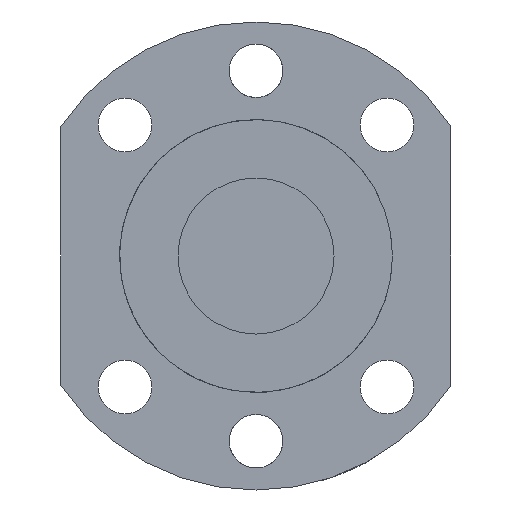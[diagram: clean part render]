
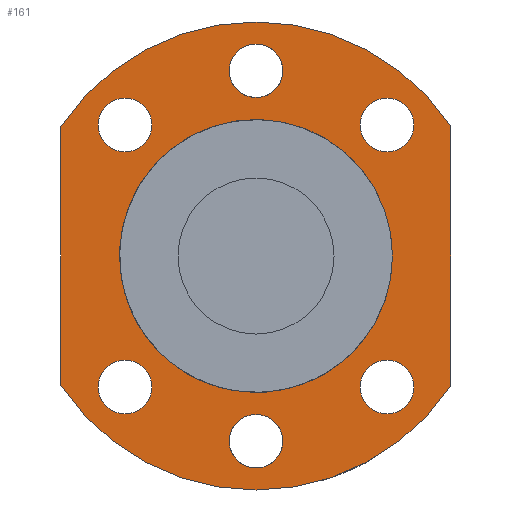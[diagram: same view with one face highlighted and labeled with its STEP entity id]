
A CAD part, front view. The second image highlights one B-rep face of the part: STEP entity #161.
In plain terms, the highlighted planar face has unit normal (0, -1, 0).
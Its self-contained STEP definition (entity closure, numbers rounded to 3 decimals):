
#104=LINE('',#853,#114);
#108=LINE('',#924,#118);
#114=VECTOR('',#673,1.);
#118=VECTOR('',#685,1.);
#141=PLANE('',#597);
#161=ADVANCED_FACE('',(#226,#227,#228,#229,#230,#231,#232,#233),#141,.F.);
#226=FACE_BOUND('',#293,.T.);
#227=FACE_BOUND('',#294,.T.);
#228=FACE_BOUND('',#295,.T.);
#229=FACE_BOUND('',#296,.T.);
#230=FACE_BOUND('',#297,.T.);
#231=FACE_BOUND('',#298,.T.);
#232=FACE_BOUND('',#299,.T.);
#233=FACE_BOUND('',#300,.T.);
#293=EDGE_LOOP('',(#379));
#294=EDGE_LOOP('',(#380));
#295=EDGE_LOOP('',(#381));
#296=EDGE_LOOP('',(#382));
#297=EDGE_LOOP('',(#383));
#298=EDGE_LOOP('',(#384));
#299=EDGE_LOOP('',(#385));
#300=EDGE_LOOP('',(#386,#387,#388,#389));
#379=ORIENTED_EDGE('',*,*,#501,.F.);
#380=ORIENTED_EDGE('',*,*,#502,.F.);
#381=ORIENTED_EDGE('',*,*,#503,.F.);
#382=ORIENTED_EDGE('',*,*,#504,.T.);
#383=ORIENTED_EDGE('',*,*,#505,.T.);
#384=ORIENTED_EDGE('',*,*,#506,.T.);
#385=ORIENTED_EDGE('',*,*,#507,.T.);
#386=ORIENTED_EDGE('',*,*,#481,.F.);
#387=ORIENTED_EDGE('',*,*,#492,.F.);
#388=ORIENTED_EDGE('',*,*,#489,.F.);
#389=ORIENTED_EDGE('',*,*,#485,.F.);
#439=VERTEX_POINT('',#845);
#440=VERTEX_POINT('',#846);
#443=VERTEX_POINT('',#854);
#446=VERTEX_POINT('',#919);
#455=VERTEX_POINT('',#943);
#456=VERTEX_POINT('',#945);
#457=VERTEX_POINT('',#947);
#458=VERTEX_POINT('',#949);
#459=VERTEX_POINT('',#951);
#460=VERTEX_POINT('',#953);
#461=VERTEX_POINT('',#955);
#481=EDGE_CURVE('',#439,#440,#528,.T.);
#485=EDGE_CURVE('',#440,#443,#104,.T.);
#489=EDGE_CURVE('',#443,#446,#530,.T.);
#492=EDGE_CURVE('',#446,#439,#108,.T.);
#501=EDGE_CURVE('',#455,#455,#539,.T.);
#502=EDGE_CURVE('',#456,#456,#540,.T.);
#503=EDGE_CURVE('',#457,#457,#541,.T.);
#504=EDGE_CURVE('',#458,#458,#542,.T.);
#505=EDGE_CURVE('',#459,#459,#543,.T.);
#506=EDGE_CURVE('',#460,#460,#544,.T.);
#507=EDGE_CURVE('',#461,#461,#545,.T.);
#528=CIRCLE('',#574,24.);
#530=CIRCLE('',#578,24.);
#539=CIRCLE('',#590,2.75);
#540=CIRCLE('',#591,2.75);
#541=CIRCLE('',#592,2.75);
#542=CIRCLE('',#593,2.75);
#543=CIRCLE('',#594,2.75);
#544=CIRCLE('',#595,2.75);
#545=CIRCLE('',#596,14.);
#574=AXIS2_PLACEMENT_3D('',#844,#665,#666);
#578=AXIS2_PLACEMENT_3D('',#918,#678,#679);
#590=AXIS2_PLACEMENT_3D('',#942,#705,#706);
#591=AXIS2_PLACEMENT_3D('',#944,#707,#708);
#592=AXIS2_PLACEMENT_3D('',#946,#709,#710);
#593=AXIS2_PLACEMENT_3D('',#948,#711,#712);
#594=AXIS2_PLACEMENT_3D('',#950,#713,#714);
#595=AXIS2_PLACEMENT_3D('',#952,#715,#716);
#596=AXIS2_PLACEMENT_3D('',#954,#717,#718);
#597=AXIS2_PLACEMENT_3D('',#956,#719,#720);
#665=DIRECTION('',(0.,1.,0.));
#666=DIRECTION('',(1.,0.,0.));
#673=DIRECTION('',(0.,0.,-1.));
#678=DIRECTION('',(0.,1.,0.));
#679=DIRECTION('',(1.,0.,0.));
#685=DIRECTION('',(0.,0.,1.));
#705=DIRECTION('',(0.,-1.,0.));
#706=DIRECTION('',(-1.,0.,0.));
#707=DIRECTION('',(0.,-1.,0.));
#708=DIRECTION('',(-0.707,0.,-0.707));
#709=DIRECTION('',(0.,-1.,0.));
#710=DIRECTION('',(0.,0.,-1.));
#711=DIRECTION('',(0.,1.,0.));
#712=DIRECTION('',(-1.,0.,0.));
#713=DIRECTION('',(0.,1.,0.));
#714=DIRECTION('',(-0.707,0.,0.707));
#715=DIRECTION('',(0.,1.,0.));
#716=DIRECTION('',(0.,0.,1.));
#717=DIRECTION('',(0.,1.,0.));
#718=DIRECTION('',(1.,0.,0.));
#719=DIRECTION('',(0.,1.,0.));
#720=DIRECTION('',(0.,0.,1.));
#844=CARTESIAN_POINT('',(0.,-22.5,0.));
#845=CARTESIAN_POINT('',(-20.,-22.5,13.266));
#846=CARTESIAN_POINT('',(20.,-22.5,13.266));
#853=CARTESIAN_POINT('',(20.,-22.5,13.266));
#854=CARTESIAN_POINT('',(20.,-22.5,-13.266));
#918=CARTESIAN_POINT('',(0.,-22.5,0.));
#919=CARTESIAN_POINT('',(-20.,-22.5,-13.266));
#924=CARTESIAN_POINT('',(-20.,-22.5,-13.266));
#942=CARTESIAN_POINT('',(13.435,-22.5,13.435));
#943=CARTESIAN_POINT('',(10.685,-22.5,13.435));
#944=CARTESIAN_POINT('',(0.,-22.5,19.));
#945=CARTESIAN_POINT('',(-1.945,-22.5,17.055));
#946=CARTESIAN_POINT('',(-13.435,-22.5,13.435));
#947=CARTESIAN_POINT('',(-13.435,-22.5,10.685));
#948=CARTESIAN_POINT('',(13.435,-22.5,-13.435));
#949=CARTESIAN_POINT('',(10.685,-22.5,-13.435));
#950=CARTESIAN_POINT('',(0.,-22.5,-19.));
#951=CARTESIAN_POINT('',(-1.945,-22.5,-17.055));
#952=CARTESIAN_POINT('',(-13.435,-22.5,-13.435));
#953=CARTESIAN_POINT('',(-13.435,-22.5,-10.685));
#954=CARTESIAN_POINT('',(0.,-22.5,0.));
#955=CARTESIAN_POINT('',(14.,-22.5,0.));
#956=CARTESIAN_POINT('',(0.,-22.5,0.));
